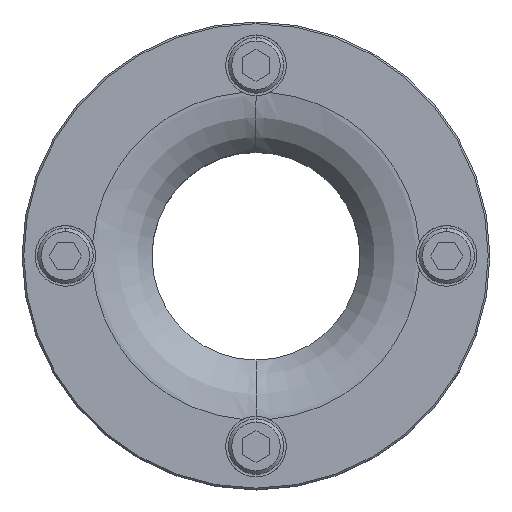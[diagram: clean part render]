
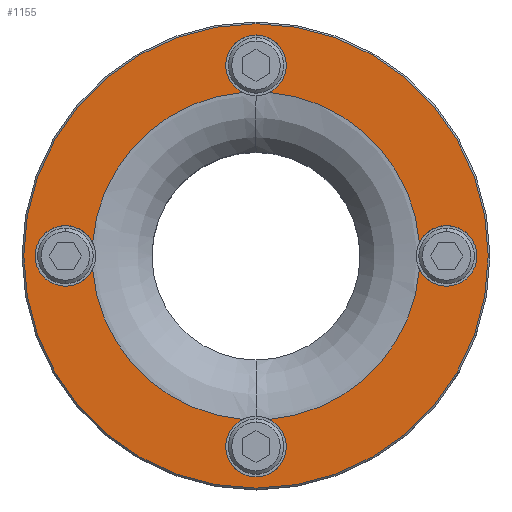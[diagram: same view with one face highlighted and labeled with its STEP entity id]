
A CAD part, top view. The second image highlights one B-rep face of the part: STEP entity #1155.
In plain terms, the highlighted planar face has unit normal (0, 0, 1).
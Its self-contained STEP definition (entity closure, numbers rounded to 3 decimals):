
#126=VERTEX_POINT(' ',#127);
#127=CARTESIAN_POINT('',(0.,-67.,20.));
#132=VERTEX_POINT(' ',#133);
#133=CARTESIAN_POINT('',(0.,67.,20.));
#174=VERTEX_POINT(' ',#175);
#175=CARTESIAN_POINT('',(3.887,47.161,20.));
#180=VERTEX_POINT(' ',#181);
#181=CARTESIAN_POINT('',(3.887,-47.161,20.));
#182=VERTEX_POINT(' ',#183);
#183=CARTESIAN_POINT('',(47.161,-3.887,20.));
#184=VERTEX_POINT(' ',#185);
#185=CARTESIAN_POINT('',(47.161,3.887,20.));
#186=VERTEX_POINT(' ',#187);
#187=CARTESIAN_POINT('',(-47.161,-3.887,20.));
#188=VERTEX_POINT(' ',#189);
#189=CARTESIAN_POINT('',(-55.,-8.75,20.));
#190=VERTEX_POINT(' ',#191);
#191=CARTESIAN_POINT('',(-55.,8.75,20.));
#192=VERTEX_POINT(' ',#193);
#193=CARTESIAN_POINT('',(-47.161,3.887,20.));
#194=VERTEX_POINT(' ',#195);
#195=CARTESIAN_POINT('',(-3.887,47.161,20.));
#196=VERTEX_POINT(' ',#197);
#197=CARTESIAN_POINT('',(0.,63.75,20.));
#198=VERTEX_POINT(' ',#199);
#199=CARTESIAN_POINT('',(55.,8.75,20.));
#200=VERTEX_POINT(' ',#201);
#201=CARTESIAN_POINT('',(55.,-8.75,20.));
#202=VERTEX_POINT(' ',#203);
#203=CARTESIAN_POINT('',(0.,-63.75,20.));
#204=VERTEX_POINT(' ',#205);
#205=CARTESIAN_POINT('',(-3.887,-47.161,20.));
#270=CIRCLE('',#271,67.);
#271=AXIS2_PLACEMENT_3D('',#272,#273,#274);
#272=CARTESIAN_POINT('',(0.,0.,20.));
#273=DIRECTION('',(0.,0.,-1.));
#274=DIRECTION('',(-1.,0.,0.));
#275=EDGE_CURVE(' ',#132,#126,#270,.T.);
#276=CIRCLE('',#277,67.);
#277=AXIS2_PLACEMENT_3D('',#278,#279,#280);
#278=CARTESIAN_POINT('',(0.,0.,20.));
#279=DIRECTION('',(0.,0.,-1.));
#280=DIRECTION('',(1.,0.,0.));
#281=EDGE_CURVE(' ',#126,#132,#276,.T.);
#518=CIRCLE('',#519,47.321);
#519=AXIS2_PLACEMENT_3D('',#520,#521,#522);
#520=CARTESIAN_POINT('',(0.,0.,20.));
#521=DIRECTION('',(0.,0.,-1.));
#522=DIRECTION('',(-1.,0.,0.));
#523=EDGE_CURVE(' ',#182,#180,#518,.T.);
#533=CIRCLE('',#534,47.321);
#534=AXIS2_PLACEMENT_3D('',#535,#536,#537);
#535=CARTESIAN_POINT('',(0.,0.,20.));
#536=DIRECTION('',(0.,0.,-1.));
#537=DIRECTION('',(-1.,0.,0.));
#538=EDGE_CURVE(' ',#174,#184,#533,.T.);
#539=CIRCLE('',#540,8.75);
#540=AXIS2_PLACEMENT_3D('',#541,#542,#543);
#541=CARTESIAN_POINT('',(-55.,0.,20.));
#542=DIRECTION('',(0.,0.,-1.));
#543=DIRECTION('',(-1.,0.,0.));
#544=EDGE_CURVE(' ',#188,#186,#539,.F.);
#545=CIRCLE('',#546,8.75);
#546=AXIS2_PLACEMENT_3D('',#547,#548,#549);
#547=CARTESIAN_POINT('',(-55.,0.,20.));
#548=DIRECTION('',(0.,0.,-1.));
#549=DIRECTION('',(1.,0.,0.));
#550=EDGE_CURVE(' ',#190,#188,#545,.F.);
#551=CIRCLE('',#552,8.75);
#552=AXIS2_PLACEMENT_3D('',#553,#554,#555);
#553=CARTESIAN_POINT('',(-55.,0.,20.));
#554=DIRECTION('',(0.,0.,-1.));
#555=DIRECTION('',(-1.,0.,0.));
#556=EDGE_CURVE(' ',#192,#190,#551,.F.);
#557=CIRCLE('',#558,47.321);
#558=AXIS2_PLACEMENT_3D('',#559,#560,#561);
#559=CARTESIAN_POINT('',(0.,0.,20.));
#560=DIRECTION('',(0.,0.,-1.));
#561=DIRECTION('',(1.,0.,0.));
#562=EDGE_CURVE(' ',#192,#194,#557,.T.);
#563=CIRCLE('',#564,8.75);
#564=AXIS2_PLACEMENT_3D('',#565,#566,#567);
#565=CARTESIAN_POINT('',(0.,55.,20.));
#566=DIRECTION('',(0.,0.,-1.));
#567=DIRECTION('',(1.,0.,0.));
#568=EDGE_CURVE(' ',#196,#194,#563,.F.);
#569=CIRCLE('',#570,8.75);
#570=AXIS2_PLACEMENT_3D('',#571,#572,#573);
#571=CARTESIAN_POINT('',(0.,55.,20.));
#572=DIRECTION('',(0.,0.,-1.));
#573=DIRECTION('',(-1.,0.,0.));
#574=EDGE_CURVE(' ',#174,#196,#569,.F.);
#575=CIRCLE('',#576,8.75);
#576=AXIS2_PLACEMENT_3D('',#577,#578,#579);
#577=CARTESIAN_POINT('',(55.,0.,20.));
#578=DIRECTION('',(0.,0.,-1.));
#579=DIRECTION('',(1.,0.,0.));
#580=EDGE_CURVE(' ',#198,#184,#575,.F.);
#581=CIRCLE('',#582,8.75);
#582=AXIS2_PLACEMENT_3D('',#583,#584,#585);
#583=CARTESIAN_POINT('',(55.,0.,20.));
#584=DIRECTION('',(0.,0.,-1.));
#585=DIRECTION('',(-1.,0.,0.));
#586=EDGE_CURVE(' ',#200,#198,#581,.F.);
#587=CIRCLE('',#588,8.75);
#588=AXIS2_PLACEMENT_3D('',#589,#590,#591);
#589=CARTESIAN_POINT('',(55.,0.,20.));
#590=DIRECTION('',(0.,0.,-1.));
#591=DIRECTION('',(1.,0.,0.));
#592=EDGE_CURVE(' ',#182,#200,#587,.F.);
#593=CIRCLE('',#594,8.75);
#594=AXIS2_PLACEMENT_3D('',#595,#596,#597);
#595=CARTESIAN_POINT('',(0.,-55.,20.));
#596=DIRECTION('',(0.,0.,-1.));
#597=DIRECTION('',(-1.,0.,0.));
#598=EDGE_CURVE(' ',#202,#180,#593,.F.);
#599=CIRCLE('',#600,8.75);
#600=AXIS2_PLACEMENT_3D('',#601,#602,#603);
#601=CARTESIAN_POINT('',(0.,-55.,20.));
#602=DIRECTION('',(0.,0.,-1.));
#603=DIRECTION('',(1.,0.,0.));
#604=EDGE_CURVE(' ',#204,#202,#599,.F.);
#605=CIRCLE('',#606,47.321);
#606=AXIS2_PLACEMENT_3D('',#607,#608,#609);
#607=CARTESIAN_POINT('',(0.,0.,20.));
#608=DIRECTION('',(0.,0.,-1.));
#609=DIRECTION('',(1.,0.,0.));
#610=EDGE_CURVE(' ',#204,#186,#605,.T.);
#1130=ORIENTED_EDGE('',*,*,#275,.F.);
#1131=ORIENTED_EDGE('',*,*,#281,.F.);
#1132=EDGE_LOOP('',(#1130,#1131));
#1133=FACE_OUTER_BOUND('',#1132,.T.);
#1134=ORIENTED_EDGE('',*,*,#544,.F.);
#1135=ORIENTED_EDGE('',*,*,#550,.F.);
#1136=ORIENTED_EDGE('',*,*,#556,.F.);
#1137=ORIENTED_EDGE('',*,*,#562,.T.);
#1138=ORIENTED_EDGE('',*,*,#568,.F.);
#1139=ORIENTED_EDGE('',*,*,#574,.F.);
#1140=ORIENTED_EDGE('',*,*,#538,.T.);
#1141=ORIENTED_EDGE('',*,*,#580,.F.);
#1142=ORIENTED_EDGE('',*,*,#586,.F.);
#1143=ORIENTED_EDGE('',*,*,#592,.F.);
#1144=ORIENTED_EDGE('',*,*,#523,.T.);
#1145=ORIENTED_EDGE('',*,*,#598,.F.);
#1146=ORIENTED_EDGE('',*,*,#604,.F.);
#1147=ORIENTED_EDGE('',*,*,#610,.T.);
#1148=EDGE_LOOP('',(#1134,#1135,#1136,#1137,#1138,#1139,#1140,#1141,#1142,#1143,#1144,#1145,#1146,#1147));
#1149=FACE_BOUND('',#1148,.T.);
#1150=PLANE('',#1151);
#1151=AXIS2_PLACEMENT_3D('',#1152,#1153,#1154);
#1152=CARTESIAN_POINT('',(0.,0.,20.));
#1153=DIRECTION('',(0.,0.,1.));
#1154=DIRECTION('',(-1.,0.,0.));
#1155=ADVANCED_FACE('',(#1133,#1149),#1150,.T.);
